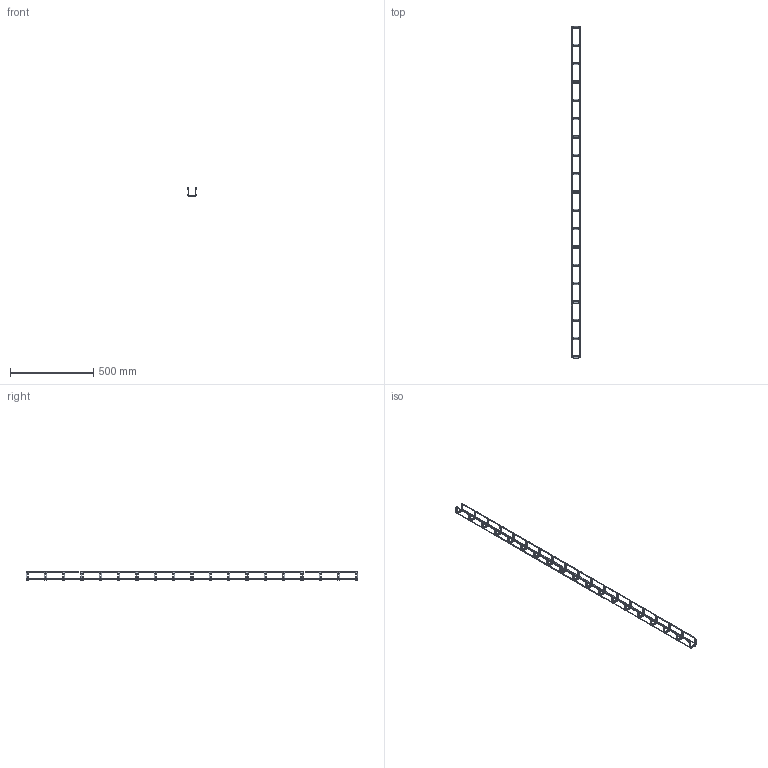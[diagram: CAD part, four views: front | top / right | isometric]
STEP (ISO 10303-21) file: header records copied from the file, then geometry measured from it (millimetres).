
FILE_DESCRIPTION(/* description */ (''),/* implementation_level */ '2;1');
FILE_NAME(/* name */ 'M2_050×050',/* time_stamp */ '2012-11-29T21:58:54+01:00',/* author */ (''),/* organization */ (''),/* preprocessor_version */ 'ST-DEVELOPER v10',/* originating_system */ '',/* authorisation */ '');
FILE_SCHEMA (('AUTOMOTIVE_DESIGN_CC2'));
Length unit declared in the file: millimetre
Products named in the file (1): 1
Bounding box: 54.19 x 1993.5 x 50.75 mm (x, y, z)
Surface area: 159511.9 mm2 (no closed solid volume)
Topology: 0 solids, 312 shells, 616 faces, 1833 edges, 1225 vertices
Faces by surface type: bspline 608, plane 8
Entity records: 52312 total; most frequent: CARTESIAN_POINT 40734, ORIENTED_EDGE 2440, EDGE_CURVE 1832, VERTEX_POINT 1224, B_SPLINE_CURVE_WITH_KNOTS 680, ADVANCED_FACE 616, FACE_OUTER_BOUND 616, EDGE_LOOP 616
